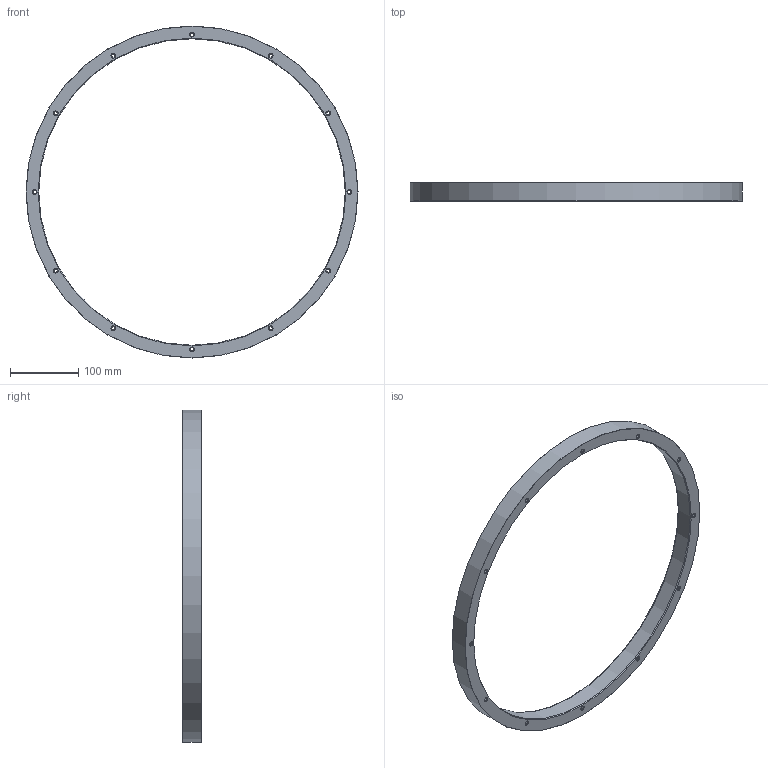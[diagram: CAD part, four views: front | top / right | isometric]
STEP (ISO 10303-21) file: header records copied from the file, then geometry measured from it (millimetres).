
FILE_DESCRIPTION(('STEP AP214'), '1');
FILE_NAME('ﾌﾀﾍﾏ.684252.020 ﾐⅳⅱ 580x27', '', ('UNSPECIFIED'), ('UNSPECIFIED'), 'C3D Converter', 'C3D Toolkit', '');
FILE_SCHEMA(('AUTOMOTIVE_DESIGN { 1 0 10303 214 3 1 1}'));
Length unit declared in the file: millimetre
Products named in the file (1): МАНП.684252.020
Bounding box: 487.4 x 27 x 487.4 mm (x, y, z)
Volume: 735218.2 mm3; surface area: 136896.1 mm2
Topology: 1 solids, 1 shells, 44 faces, 98 edges, 56 vertices
Faces by surface type: cone 26, cylinder 14, plane 2, torus 2
Full cylindrical faces by diameter (mm): 4.917 x12, 450 x1, 487.4 x1
Entity records: 1448 total; most frequent: DIRECTION 202, CARTESIAN_POINT 157, EDGE_LOOP 112, ORIENTED_EDGE 112, AXIS2_PLACEMENT_3D 101, FACE_OUTER_BOUND 84, EDGE_CURVE 56, VERTEX_POINT 56
